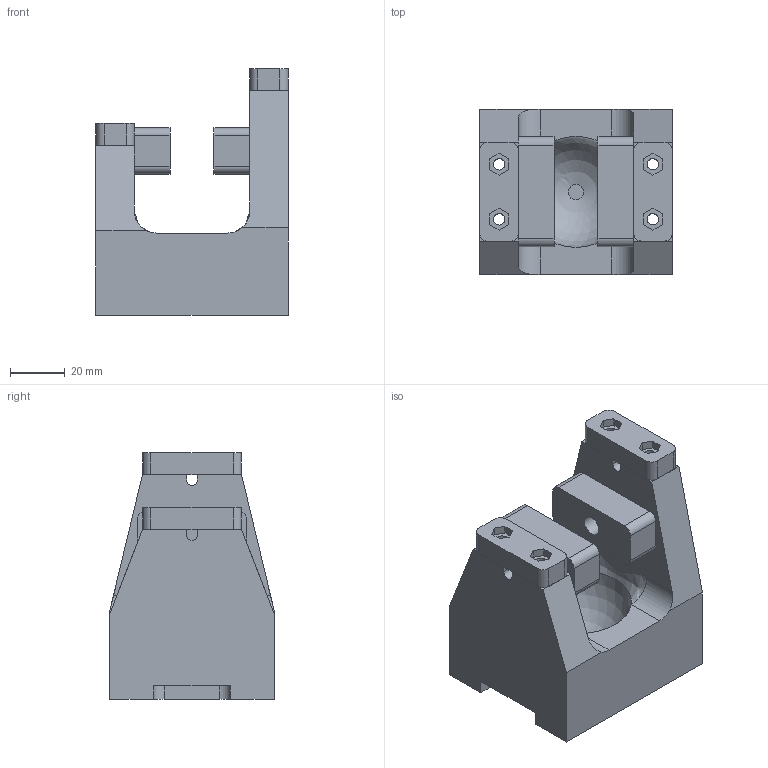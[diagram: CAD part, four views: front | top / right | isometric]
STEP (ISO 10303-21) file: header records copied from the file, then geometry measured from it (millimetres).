
FILE_DESCRIPTION(/* description */ ('CAx-IF Rec.Pracs.---Representation and Presentation of Product Manufacturing Information (PMI)---4.0---2014-10-13','CAx-IF Rec.Pracs.---3D Tessellated Geometry---0.4---2014-09-14','2;1'),/* implementation_level */ '2;1');
FILE_NAME(/* name */ 'qc1_t2_foot_ball_tool',/* time_stamp */ '2026-07-24T03:38:27+03:00',/* author */ (''),/* organization */ (''),/* preprocessor_version */ 'ST-DEVELOPER v19.4',/* originating_system */ 'SIEMENS PLM Software NX2306.1700',/* authorisation */ $);
FILE_SCHEMA (('AP242_MANAGED_MODEL_BASED_3D_ENGINEERING_MIM_LF { 1 0 10303 442 3 1 4 }'));
Length unit declared in the file: millimetre
Products named in the file (1): qc1_t2_foot_ball_tool
Bounding box: 70 x 60 x 89.86 mm (x, y, z)
Volume: 178400.4 mm3; surface area: 40592.7 mm2
Topology: 5 solids, 5 shells, 126 faces, 333 edges, 221 vertices
Faces by surface type: plane 88, cylinder 35, bspline 2, sphere 1
Full cylindrical faces by diameter (mm): 4.2 x8, 7.2 x1
Entity records: 3992 total; most frequent: CARTESIAN_POINT 765, DIRECTION 648, ORIENTED_EDGE 642, EDGE_CURVE 321, LINE 240, VECTOR 240, VERTEX_POINT 219, AXIS2_PLACEMENT_3D 204
